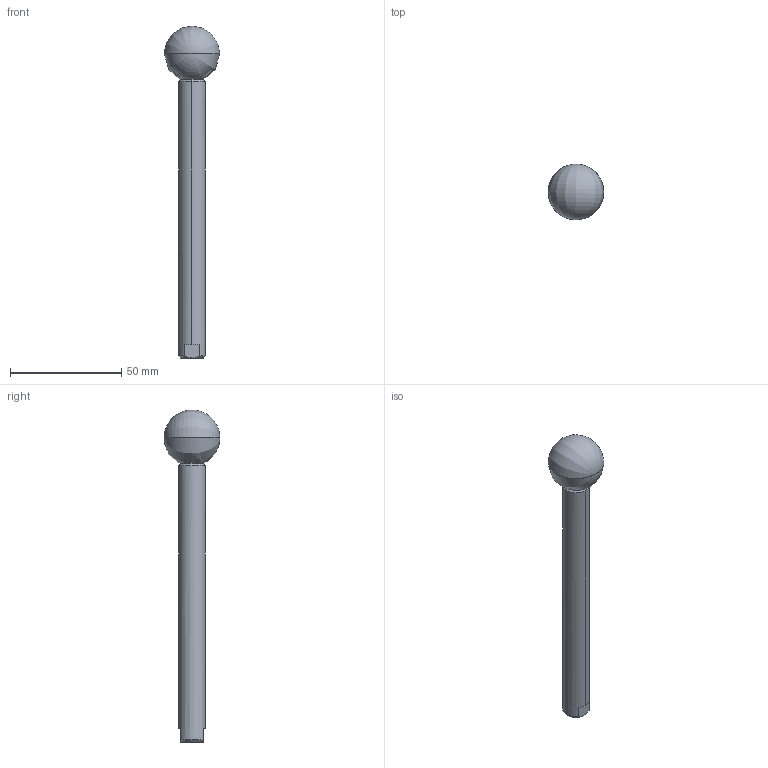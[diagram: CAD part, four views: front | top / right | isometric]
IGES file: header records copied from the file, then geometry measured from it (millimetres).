
Start section: SolidWorks IGES file using analytic representation for surfaces
Global section: file name: X:\11_SW2020-Inv2020\00_全2021-11新製品まで\q\QLRCS-12125\qlrcs-12125.IGS; native system: SolidWorks 2020; preprocessor: SolidWorks 2020; author: ImaoCorp; date: 211021.172028; units: millimetre
Bounding box: 25 x 24.98 x 148.99 mm (x, y, z)
Surface area: 6923.4 mm2 (no closed solid volume)
Topology: 0 solids, 0 shells, 19 faces, 296 edges, 294 vertices
Faces by surface type: revolution 12, bspline 7
